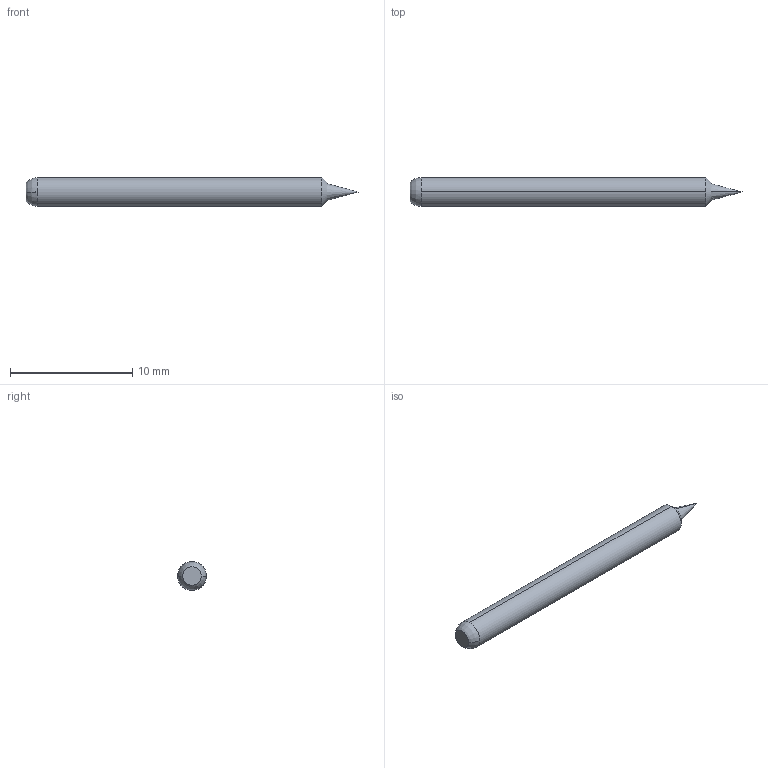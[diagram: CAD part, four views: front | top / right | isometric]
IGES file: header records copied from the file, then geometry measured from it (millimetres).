
Start section: SolidWorks IGES file using analytic representation for surfaces
Global section: file name: Z:\probe solid model mockups\Solidworks models\IGES Files\EPA-4 IGES files\EPA-4B Full.IGS; native system: SolidWorks 2006 by SolidWorks Corporation; preprocessor: SolidWorks 2006 by SolidWorks Corporation; author: tsakatani; date: 080103.104116; units: inch
Bounding box: 27.18 x 2.36 x 2.36 mm (x, y, z)
Surface area: 193.7 mm2 (no closed solid volume)
Topology: 0 solids, 0 shells, 11 faces, 60 edges, 58 vertices
Faces by surface type: revolution 10, bspline 1
